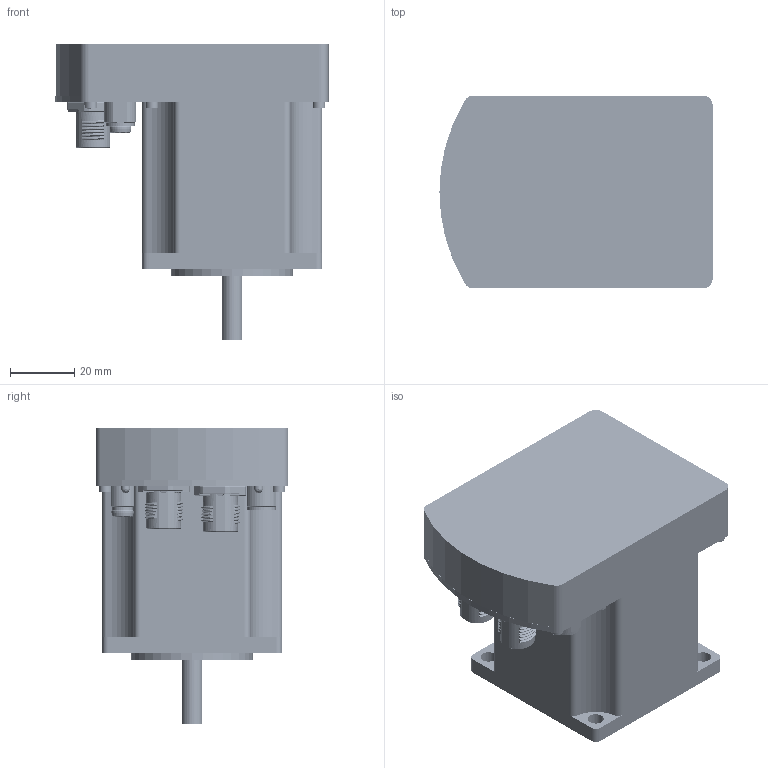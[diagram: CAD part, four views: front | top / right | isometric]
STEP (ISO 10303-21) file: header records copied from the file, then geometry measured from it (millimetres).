
FILE_DESCRIPTION (( 'STEP AP214' ), '1' );
FILE_NAME ('232.STEP', '2023-05-02T07:39:37', ( '' ), ( '' ), 'SwSTEP 2.0', 'SolidWorks 2017', '' );
FILE_SCHEMA (( 'AUTOMOTIVE_DESIGN' ));
Length unit declared in the file: millimetre
Products named in the file (8): BN7_screw_inbus_M2_5; P036.752.0002.10A iMOT23x-TM Baseplate_D‚faut; M12.Cylinder; P036.161.0001.10A Magnet Carrier iMOT23_D‚faut; P036.752.0003.01A iMOT23 Cover_D‚faut; P036.710.0005.10C simplif; P036  IS23 Motor-23x_232; 232
Assembly tree (15 placements, depth 2):
  232
    P036.752.0002.10A iMOT23x-TM Baseplate_D‚faut
    M12.Cylinder
    P036  IS23 Motor-23x_232
    P036.161.0001.10A Magnet Carrier iMOT23_D‚faut
    P036.752.0003.01A iMOT23 Cover_D‚faut
    BN7_screw_inbus_M2_5  x9
    P036.710.0005.10C simplif
Bounding box: 85 x 60 x 92 mm (x, y, z)
Volume: 174102.7 mm3; surface area: 68733.3 mm2
Topology: 15 solids, 165 shells, 5747 faces, 15088 edges, 9752 vertices
Faces by surface type: plane 2861, cylinder 2048, bspline 469, cone 189, torus 169, sphere 11
Entity records: 251477 total; most frequent: CARTESIAN_POINT 63426, ORIENTED_EDGE 28768, DIRECTION 26516, EDGE_CURVE 14436, VERTEX_POINT 9444, AXIS2_PLACEMENT_3D 8933, LINE 8650, VECTOR 8650
